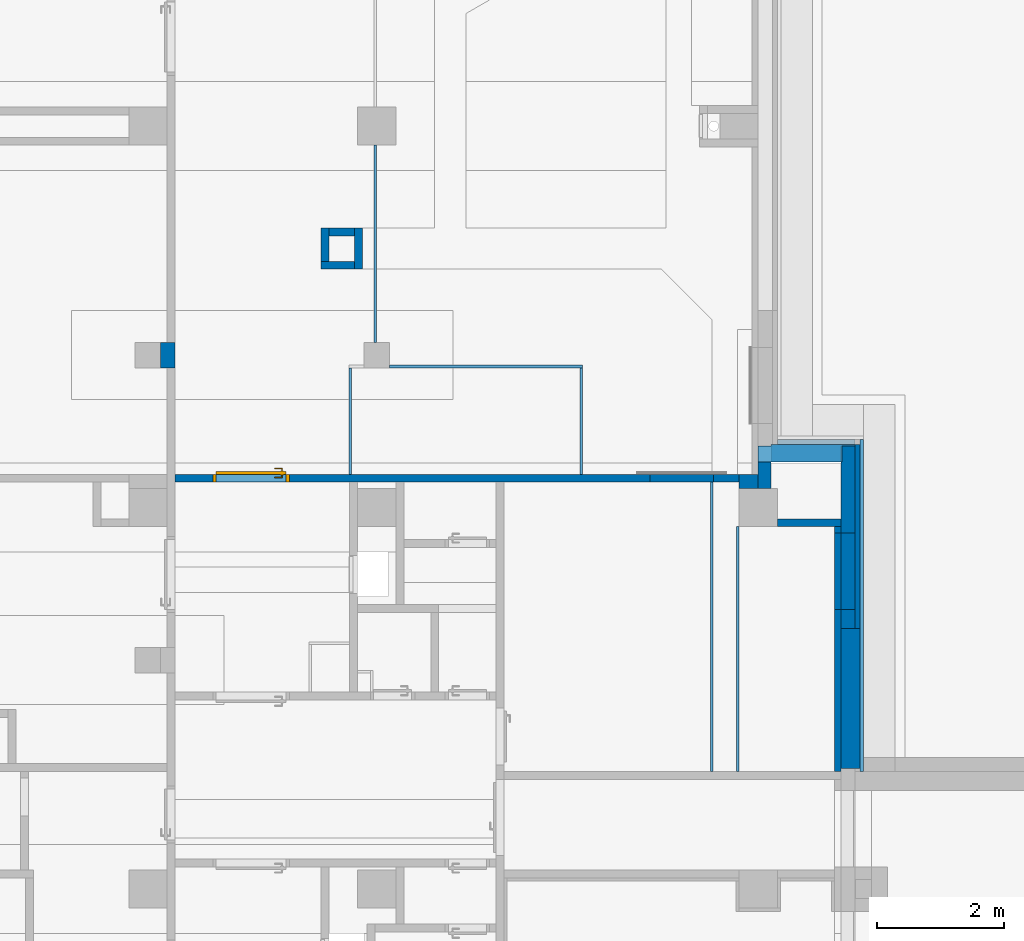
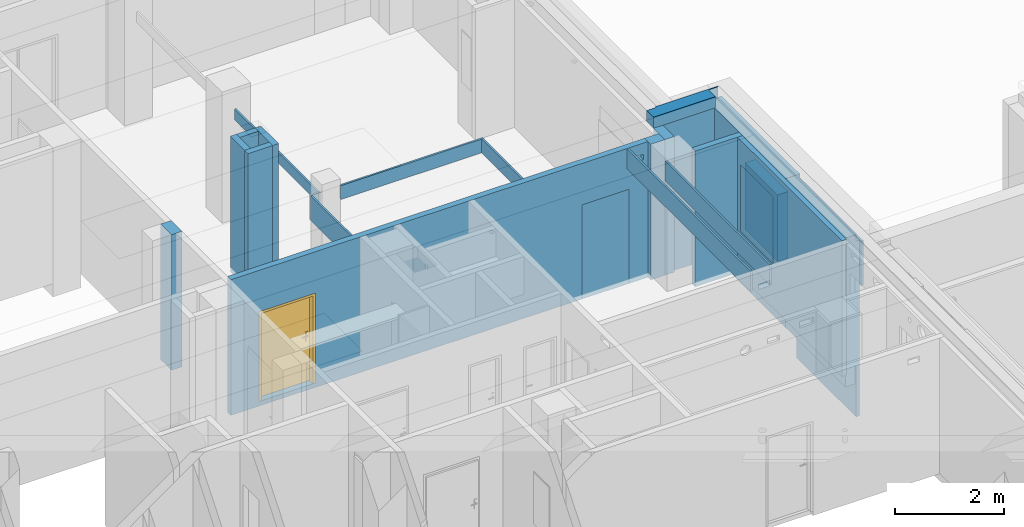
# One storey, part 39 of 84: 25 walls, 1 door, 5 openings.
"""IFC4 building model written with IfcOpenShell, lengths in metres."""

import ifcopenshell
import ifcopenshell.guid

model = None  # the IFC model being written
_history = None  # IfcOwnerHistory: only IFC2X3 demands one
_inside = {}  # id of a spatial element -> (the spatial element, [elements in it])
_under = {}  # id of a project, library or spatial element -> (it, [spatial elements below it])
_declared = {}  # id of a project -> (the project, [libraries it declares])
_typed = {}  # id of a type object -> (the type object, [elements of that type])
_made_of = {}  # id of a material, layer set ... -> (it, [elements and type objects made of it])


def new_model(schema):
    """Start an empty IFC model of exactly this schema.

    Asked for "IFC4X3", IfcOpenShell would pick the latest addendum, in which some entities
    have other attributes; the version numbers below select the first issue.
    IFC2X3 requires an IfcOwnerHistory on every rooted entity: one is made here for all.
    """
    global model, _history
    if schema == "IFC4X3":
        model = ifcopenshell.file(schema_version=(4, 3, 0, 0))
    else:
        model = ifcopenshell.file(schema=schema)
    _inside.clear()
    _under.clear()
    _declared.clear()
    _typed.clear()
    _made_of.clear()
    _history = None
    if model.schema == "IFC2X3":
        org = make("IfcOrganization", Name="unknown")
        user = make(
            "IfcPersonAndOrganization",
            ThePerson=make("IfcPerson", FamilyName="unknown"),
            TheOrganization=org,
        )
        app = make(
            "IfcApplication",
            ApplicationDeveloper=org,
            Version="unknown",
            ApplicationFullName="unknown",
            ApplicationIdentifier="unknown",
        )
        _history = make(
            "IfcOwnerHistory",
            OwningUser=user,
            OwningApplication=app,
            ChangeAction="ADDED",
            CreationDate=0,
        )
    return model


def make(cls, **values):
    """One entity of the class cls with the attributes given. An attribute that is None is left unset."""
    return model.create_entity(
        cls, **{name: value for name, value in values.items() if value is not None}
    )


def entity(cls, *values):
    """Any entity or typed value of the class cls, its attributes in the order of the schema. None: left unset."""
    e = model.create_entity(cls)
    for i, value in enumerate(values):
        if value is not None:
            e[i] = value
    return e


def rooted(cls, **values):
    """An entity with a GlobalId (a new one), such as an element, a storey or a relation."""
    return make(cls, GlobalId=ifcopenshell.guid.new(), OwnerHistory=_history, **values)


def si_unit(unit_type, name, prefix=None):
    """IfcSIUnit, for example si_unit("LENGTHUNIT", "METRE", prefix="MILLI")."""
    return make("IfcSIUnit", UnitType=unit_type, Prefix=prefix, Name=name)


def converted_unit(unit_type, name, factor, base, dimensions=None, offset=None):
    """IfcConversionBasedUnit, such as the inch: factor (a typed value) times the base unit."""
    return make(
        "IfcConversionBasedUnit"
        if offset is None
        else "IfcConversionBasedUnitWithOffset",
        ConversionOffset=offset,
        Dimensions=None
        if dimensions is None
        else entity("IfcDimensionalExponents", *dimensions),
        UnitType=unit_type,
        Name=name,
        ConversionFactor=make(
            "IfcMeasureWithUnit", ValueComponent=factor, UnitComponent=base
        ),
    )


def derived_unit(unit_type, elements):
    """IfcDerivedUnit: a product of units, each with its exponent."""
    return make(
        "IfcDerivedUnit",
        Elements=[
            make("IfcDerivedUnitElement", Unit=unit, Exponent=power)
            for unit, power in elements
        ],
        UnitType=unit_type,
    )


def assignment(units):
    """IfcUnitAssignment: the units of a project."""
    return None if units is None else make("IfcUnitAssignment", Units=units)


def point(xyz):
    """IfcCartesianPoint."""
    return None if xyz is None else make("IfcCartesianPoint", Coordinates=xyz)


def direction(xyz):
    """IfcDirection."""
    return None if xyz is None else make("IfcDirection", DirectionRatios=xyz)


def frame(location, z_axis=None, x_axis=None):
    """IfcAxis2Placement3D, a coordinate frame: its origin and axes. An axis left out is left unset."""
    return make(
        "IfcAxis2Placement3D",
        Location=point(location),
        Axis=direction(z_axis),
        RefDirection=direction(x_axis),
    )


def frame_2d(location, x_axis=None):
    """IfcAxis2Placement2D, a coordinate frame in the plane: its origin and x axis."""
    return make(
        "IfcAxis2Placement2D", Location=point(location), RefDirection=direction(x_axis)
    )


def origin():
    """The frame at (0, 0, 0) with its axes left unset."""
    return frame((0.0, 0.0, 0.0))


def origin_with_axes():
    """The frame at (0, 0, 0) with the z axis (0, 0, 1) and the x axis (1, 0, 0) written out."""
    return frame((0.0, 0.0, 0.0), z_axis=(0.0, 0.0, 1.0), x_axis=(1.0, 0.0, 0.0))


def place(relative_to, where):
    """IfcLocalPlacement: puts the frame where relative to a parent placement (None: the world)."""
    return make(
        "IfcLocalPlacement", PlacementRelTo=relative_to, RelativePlacement=where
    )


def context(
    kind, dimensions, precision=None, world=None, true_north=None, identifier=None
):
    """IfcGeometricRepresentationContext, for example the 3D "Model" context."""
    return make(
        "IfcGeometricRepresentationContext",
        ContextIdentifier=identifier,
        ContextType=kind,
        CoordinateSpaceDimension=dimensions,
        Precision=precision,
        WorldCoordinateSystem=world,
        TrueNorth=true_north,
    )


def subcontext(parent, identifier, kind, view, scale=None):
    """IfcGeometricRepresentationSubContext, for example "Body" below "Model"."""
    return make(
        "IfcGeometricRepresentationSubContext",
        ContextIdentifier=identifier,
        ContextType=kind,
        ParentContext=parent,
        TargetScale=scale,
        TargetView=view,
    )


def project(units=None, contexts=None):
    """IfcProject with its units and contexts."""
    return rooted(
        "IfcProject",
        Name="project",
        RepresentationContexts=contexts,
        UnitsInContext=assignment(units),
    )


def spatial(cls, under=None, at=None, **own):
    """A site, building, storey or space (cls), placed at a placement, below another one or the project."""
    s = rooted(cls, ObjectPlacement=at, **own)
    if under is not None:
        _under.setdefault(under.id(), (under, []))[1].append(s)
    return s


def polyline(points):
    """IfcPolyline through the points."""
    return make("IfcPolyline", Points=[point(p) for p in points])


def profile(cls, at=None, kind="AREA", **sizes):
    """A parametric profile (cls). Its sizes go by their IFC names, for example OverallWidth=200.0."""
    return make(cls, ProfileType=kind, Position=at, **sizes)


def rectangle(**sizes):
    """IfcRectangleProfileDef."""
    return profile("IfcRectangleProfileDef", **sizes)


def outline(outer, holes=None, kind="AREA"):
    """IfcArbitraryClosedProfileDef: a profile drawn as a closed curve; with holes, ...WithVoids."""
    if holes is None:
        return make("IfcArbitraryClosedProfileDef", ProfileType=kind, OuterCurve=outer)
    return make(
        "IfcArbitraryProfileDefWithVoids",
        ProfileType=kind,
        OuterCurve=outer,
        InnerCurves=holes,
    )


def extrude(swept, where, along, depth):
    """IfcExtrudedAreaSolid: the profile swept, set in the frame where, extruded along a direction by depth."""
    return make(
        "IfcExtrudedAreaSolid",
        SweptArea=swept,
        Position=where,
        ExtrudedDirection=direction(along),
        Depth=depth,
    )


def clip(a, b, op="DIFFERENCE"):
    """IfcBooleanClippingResult: the solid a cut by the half space b."""
    return make(
        "IfcBooleanClippingResult", Operator=op, FirstOperand=a, SecondOperand=b
    )


def bounded_halfspace(plane, agree, where, boundary):
    """IfcPolygonalBoundedHalfSpace: a half space limited to a polygon's prism."""
    return make(
        "IfcPolygonalBoundedHalfSpace",
        BaseSurface=make("IfcPlane", Position=plane),
        AgreementFlag=agree,
        Position=where,
        PolygonalBoundary=boundary,
    )


def faces_of(points, faces, orient=None, outer=None):
    """IfcFace entities. A face is a list of loops; a loop is a list of indices into points, from 0.

    orient and outer hold one flag for each loop. By default every Orientation is true, the
    first loop of a face is its IfcFaceOuterBound and the others are IfcFaceBound.
    """
    made = []
    for i, loops in enumerate(faces):
        bounds = []
        for j, loop in enumerate(loops):
            is_outer = j == 0 if outer is None else outer[i][j]
            bounds.append(
                make(
                    "IfcFaceOuterBound" if is_outer else "IfcFaceBound",
                    Bound=make("IfcPolyLoop", Polygon=[points[k] for k in loop]),
                    Orientation=True if orient is None else orient[i][j],
                )
            )
        made.append(make("IfcFace", Bounds=bounds))
    return made


def closed_shell(faces, orient=None, outer=None):
    """The faces of one IfcClosedShell. faceted_brep and surface_model build it on their shared points."""
    return ("IfcClosedShell", faces, orient, outer)


def open_shell(faces, orient=None, outer=None):
    """The faces of one IfcOpenShell. surface_model builds it on its shared points."""
    return ("IfcOpenShell", faces, orient, outer)


def surface_model(cls, points, shells):
    """IfcFaceBasedSurfaceModel or IfcShellBasedSurfaceModel (cls): surfaces that need not close."""
    shared = [point(p) for p in points]
    made = [make(c, CfsFaces=faces_of(shared, fs, o, b)) for c, fs, o, b in shells]
    if cls == "IfcFaceBasedSurfaceModel":
        return make(cls, FbsmFaces=made)
    return make(cls, SbsmBoundary=made)


def shape(context_of_items, identifier, shape_type, items):
    """IfcShapeRepresentation: the items that make up one representation, for example the "Body"."""
    return make(
        "IfcShapeRepresentation",
        ContextOfItems=context_of_items,
        RepresentationIdentifier=identifier,
        RepresentationType=shape_type,
        Items=items,
    )


def source(mapping_origin, context_of_items, identifier, shape_type, items):
    """IfcRepresentationMap: a shape defined once, which mapped items show again and again."""
    return make(
        "IfcRepresentationMap",
        MappingOrigin=mapping_origin,
        MappedRepresentation=shape(context_of_items, identifier, shape_type, items),
    )


def transform(
    local_origin,
    x_axis=None,
    y_axis=None,
    z_axis=None,
    scale=None,
    scale2=None,
    scale3=None,
    uniform=True,
):
    """IfcCartesianTransformationOperator3D, or its non-uniform kind. x_axis, y_axis, z_axis: its Axis1, 2, 3."""
    if uniform:
        return make(
            "IfcCartesianTransformationOperator3D",
            Axis1=direction(x_axis),
            Axis2=direction(y_axis),
            LocalOrigin=point(local_origin),
            Scale=scale,
            Axis3=direction(z_axis),
        )
    return make(
        "IfcCartesianTransformationOperator3DnonUniform",
        Axis1=direction(x_axis),
        Axis2=direction(y_axis),
        LocalOrigin=point(local_origin),
        Scale=scale,
        Axis3=direction(z_axis),
        Scale2=scale2,
        Scale3=scale3,
    )


def mapped(mapping_source, mapping_target):
    """IfcMappedItem: shows the shape of a source again, moved by a transform."""
    return make(
        "IfcMappedItem", MappingSource=mapping_source, MappingTarget=mapping_target
    )


def material(Name=None, Category=None):
    """IfcMaterial."""
    return make("IfcMaterial", Name=Name, Category=Category)


def layer(
    of_material, thickness, ventilated=None, Name=None, Category=None, Priority=None
):
    """IfcMaterialLayer: one layer of a wall or slab, of a material (None: an air gap)."""
    return make(
        "IfcMaterialLayer",
        Material=of_material,
        LayerThickness=thickness,
        IsVentilated=ventilated,
        Name=Name,
        Category=Category,
        Priority=Priority,
    )


def layer_set(layers, Name=None):
    """IfcMaterialLayerSet."""
    return make("IfcMaterialLayerSet", MaterialLayers=layers, LayerSetName=Name)


def layer_usage(for_layer_set, set_direction, sense, offset, extent=None):
    """IfcMaterialLayerSetUsage: how a layer set lies in its element."""
    return make(
        "IfcMaterialLayerSetUsage",
        ForLayerSet=for_layer_set,
        LayerSetDirection=set_direction,
        DirectionSense=sense,
        OffsetFromReferenceLine=offset,
        ReferenceExtent=extent,
    )


def made_of(thing, what):
    """Note that an element or type object is made of a material, layer set ...; save() writes the relation."""
    if what is not None:
        _made_of.setdefault(what.id(), (what, []))[1].append(thing)
    return thing


def type_object(cls, material=None, **own):
    """A type object (cls), such as IfcWallType, which elements share."""
    return made_of(rooted(cls, **own), material)


def element(
    cls,
    number,
    at=None,
    inside=None,
    cuts=None,
    type_object=None,
    material=None,
    context=None,
    identifier="Body",
    shape_type=None,
    held_by="IfcProductDefinitionShape",
    body=None,
    shapes=None,
    **own,
):
    """One element of the class cls, such as IfcWall. Its Tag is "e" and its number.

    at: its placement. inside: the storey or other place that contains it. cuts: it is an
    opening in that element (IfcRelVoidsElement). A single representation is given by context,
    identifier, shape_type and body (its items); several are given by shapes. held_by: the class
    of the entity that holds the representations. save() writes the other relations.
    """
    e = rooted(cls, Tag="e%d" % number, ObjectPlacement=at, **own)
    if body is not None:
        shapes = [shape(context, identifier, shape_type, body)]
    if shapes is not None:
        e.Representation = make(held_by, Representations=shapes)
    if inside is not None:
        _inside.setdefault(inside.id(), (inside, []))[1].append(e)
    if cuts is not None:
        rooted(
            "IfcRelVoidsElement", RelatingBuildingElement=cuts, RelatedOpeningElement=e
        )
    if type_object is not None:
        _typed.setdefault(type_object.id(), (type_object, []))[1].append(e)
    return made_of(e, material)


def fill(opening, filler):
    """IfcRelFillsElement: the door or window that sits in an opening."""
    return rooted(
        "IfcRelFillsElement",
        RelatingOpeningElement=opening,
        RelatedBuildingElement=filler,
    )


def aggregate(whole, parts):
    """IfcRelAggregates: a whole, such as a stair, and the parts it consists of."""
    return rooted("IfcRelAggregates", RelatingObject=whole, RelatedObjects=parts)


def save(model, path):
    """Write the relations noted so far, then the file.

    IfcRelAggregates (storeys below a building ...), IfcRelContainedInSpatialStructure (elements
    in a storey), IfcRelDefinesByType, IfcRelAssociatesMaterial and IfcRelDeclares: one each for
    every whole, place, type object, material and project.
    """
    for whole, parts in _under.values():
        aggregate(whole, parts)
    for where, things in _inside.values():
        rooted(
            "IfcRelContainedInSpatialStructure",
            RelatedElements=things,
            RelatingStructure=where,
        )
    for kind, things in _typed.values():
        rooted("IfcRelDefinesByType", RelatedObjects=things, RelatingType=kind)
    for what, things in _made_of.values():
        rooted("IfcRelAssociatesMaterial", RelatedObjects=things, RelatingMaterial=what)
    for by, libraries in _declared.values():
        rooted("IfcRelDeclares", RelatingContext=by, RelatedDefinitions=libraries)
    model.write(path)


model = new_model("IFC4")

# Units and contexts
model_context = context("Model", 3, precision=1e-05, world=origin())
body_context = subcontext(model_context, "Body", "Model", "MODEL_VIEW")
ifc_project = project(units=[si_unit("LENGTHUNIT", "METRE"), si_unit("AREAUNIT", "SQUARE_METRE"), si_unit("VOLUMEUNIT", "CUBIC_METRE"), si_unit("MASSUNIT", "GRAM", prefix="KILO"), converted_unit("PLANEANGLEUNIT", "DEGREE", entity("IfcPlaneAngleMeasure", 0.0174532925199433), si_unit("PLANEANGLEUNIT", "RADIAN"), dimensions=[0, 0, 0, 0, 0, 0, 0]), derived_unit("THERMALTRANSMITTANCEUNIT", [(si_unit("POWERUNIT", "WATT"), 1), (si_unit("THERMODYNAMICTEMPERATUREUNIT", "KELVIN"), -1), (si_unit("LENGTHUNIT", "METRE"), -2)]), derived_unit("VOLUMETRICFLOWRATEUNIT", [(si_unit("LENGTHUNIT", "METRE"), 3), (converted_unit("TIMEUNIT", "hour", entity("IfcTimeMeasure", 3600.0), si_unit("TIMEUNIT", "SECOND"), dimensions=[0, 0, 1, 0, 0, 0, 0]), -1), (si_unit("LENGTHUNIT", "METRE"), -1)])], contexts=[model_context])

# Site, building, storey
site_placement = place(None, origin())
site = spatial("IfcSite", under=ifc_project, at=site_placement, Name="3. ASŘ", CompositionType="ELEMENT")
building_placement = place(site_placement, origin())
building = spatial("IfcBuilding", under=site, at=building_placement, Name="Pavilon C", CompositionType="ELEMENT")
storey_placement = place(building_placement, frame((0.0, 0.0, -3.3)))
storey = spatial("IfcBuildingStorey", under=building, at=storey_placement, Name="Půdorys 1.PP", CompositionType="ELEMENT", Elevation=-3.3)

# Walls
ifc_material_1 = material(Name="ZELEZOBETONOVÁ KCE")
ifc_layer_1 = layer(ifc_material_1, 0.25)
ifc_material_2 = material(Name="LIGNOPOR")
ifc_layer_2 = layer(ifc_material_2, 0.025)
ifc_material_3 = material(Name="PÓROBETONOVÉ ZDIVO")
ifc_layer_3 = layer(ifc_material_3, 0.08)
ifc_layer_set_1 = layer_set([ifc_layer_1, ifc_layer_2, ifc_layer_3])
ifc_layer_usage_1 = layer_usage(ifc_layer_set_1, "AXIS2", "POSITIVE", 0.0)
wall_1_placement = place(storey_placement, frame((50.15, 19.92, -0.4)))
element("IfcWall", 1, at=wall_1_placement, inside=storey, material=ifc_layer_usage_1, Name="ZELEZOBETONOVÁ KCE", context=body_context, shape_type="Clipping", body=[
    clip(clip(extrude(outline(polyline([(0.0, 0.0), (1.1, 0.0), (1.1, 0.25), (1.3, 0.25), (1.3, 0.275), (1.325, 0.275), (1.325, 0.355), (0.105, 0.355), (0.105, 0.275), (0.025, 0.275), (0.025, 0.25), (0.0, 0.25), (0.0, 0.0)])), origin_with_axes(), (0.0, 0.0, 1.0), 3.35), bounded_halfspace(frame((0.6425, 0.262499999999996, 0.4), z_axis=(0.0, 0.0, 1.0), x_axis=(-1.0, 0.0, 0.0)), True, origin_with_axes(), polyline([(0.105, 0.275), (0.025, 0.275), (0.025, 0.25), (1.10000000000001, 0.25), (1.3, 0.25), (1.3, 0.275), (0.105, 0.275)]))), bounded_halfspace(frame((0.832, 0.307, 1.3), z_axis=(0.0, 2.8421709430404e-15, -1.0), x_axis=(1.0, 0.0, 1.81898940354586e-14)), True, origin_with_axes(), polyline([(1.3, 0.275), (1.325, 0.275), (1.325, 0.355), (0.105, 0.355), (0.105, 0.275), (1.3, 0.275)]))),
])
ifc_material_4 = material(Name="ZDIVO Z CDm")
ifc_layer_4 = layer(ifc_material_4, 0.125)
ifc_layer_set_2 = layer_set([ifc_layer_4])
ifc_layer_usage_2 = layer_usage(ifc_layer_set_2, "AXIS2", "POSITIVE", 0.0)
wall_2_placement = place(storey_placement, frame((50.25, 18.9, -0.1)))
element("IfcWall", 2, at=wall_2_placement, inside=storey, material=ifc_layer_usage_2, Name="ZDIVO Z CDm", context=body_context, shape_type="SweptSolid", body=[
    extrude(rectangle(XDim=1.0, YDim=0.125, at=frame_2d((0.5, 0.0625), x_axis=(1.0, 0.0))), origin_with_axes(), (0.0, 0.0, 1.0), 3.05),
])
ifc_material_5 = material(Name="ZDIVO Z CDm")
ifc_layer_5 = layer(ifc_material_5, 0.125)
ifc_layer_set_3 = layer_set([ifc_layer_5])
ifc_layer_usage_3 = layer_usage(ifc_layer_set_3, "AXIS2", "POSITIVE", 0.0)
wall_3_placement = place(storey_placement, frame((43.2, 23.075, -0.1), z_axis=(0.0, 0.0, 1.0), x_axis=(0.0, 1.0, 0.0)))
element("IfcWall", 3, at=wall_3_placement, inside=storey, material=ifc_layer_usage_3, Name="ZDIVO Z CDm", context=body_context, shape_type="SweptSolid", body=[
    extrude(rectangle(XDim=0.525, YDim=0.125, at=frame_2d((0.2625, 0.0625), x_axis=(1.0, 0.0))), origin_with_axes(), (0.0, 0.0, 1.0), 3.05),
])
ifc_material_6 = material(Name="ZDIVO Z CDm")
ifc_layer_6 = layer(ifc_material_6, 0.125)
ifc_layer_set_4 = layer_set([ifc_layer_6])
ifc_layer_usage_4 = layer_usage(ifc_layer_set_4, "AXIS2", "POSITIVE", 0.0)
wall_4_placement = place(storey_placement, frame((43.6, 23.6, -0.1), z_axis=(0.0, 0.0, 1.0), x_axis=(0.0, -1.0, 0.0)))
element("IfcWall", 4, at=wall_4_placement, inside=storey, material=ifc_layer_usage_4, Name="ZDIVO Z CDm", context=body_context, shape_type="SweptSolid", body=[
    extrude(rectangle(XDim=0.65, YDim=0.125, at=frame_2d((0.325, 0.0625), x_axis=(1.0, 0.0))), origin_with_axes(), (0.0, 0.0, 1.0), 3.05),
])
ifc_material_7 = material(Name="ZDIVO Z CDm")
ifc_layer_7 = layer(ifc_material_7, 0.125)
ifc_layer_set_5 = layer_set([ifc_layer_7])
ifc_layer_usage_5 = layer_usage(ifc_layer_set_5, "AXIS2", "POSITIVE", 0.0)
wall_5_placement = place(storey_placement, frame((43.6, 23.075, -0.1), z_axis=(0.0, 0.0, 1.0), x_axis=(-1.0, 0.0, 0.0)))
element("IfcWall", 5, at=wall_5_placement, inside=storey, material=ifc_layer_usage_5, Name="ZDIVO Z CDm", context=body_context, shape_type="SweptSolid", body=[
    extrude(rectangle(XDim=0.525, YDim=0.125, at=frame_2d((0.2625, 0.0625), x_axis=(1.0, 0.0))), origin_with_axes(), (0.0, 0.0, 1.0), 3.05),
])
ifc_material_8 = material(Name="ZDIVO Z CDm")
ifc_layer_8 = layer(ifc_material_8, 0.125)
ifc_layer_set_6 = layer_set([ifc_layer_8])
ifc_layer_usage_6 = layer_usage(ifc_layer_set_6, "AXIS2", "POSITIVE", 0.0)
wall_6_placement = place(storey_placement, frame((43.2, 23.475, -0.1)))
element("IfcWall", 6, at=wall_6_placement, inside=storey, material=ifc_layer_usage_6, Name="ZDIVO Z CDm", context=body_context, shape_type="SweptSolid", body=[
    extrude(rectangle(XDim=0.4, YDim=0.125, at=frame_2d((0.2, 0.0625), x_axis=(1.0, 0.0))), origin_with_axes(), (0.0, 0.0, 1.0), 3.05),
])
ifc_material_9 = material(Name="SDK SVISLA CAST PODHLEDU")
ifc_layer_9 = layer(ifc_material_9, 0.04)
ifc_layer_set_7 = layer_set([ifc_layer_9])
ifc_layer_usage_7 = layer_usage(ifc_layer_set_7, "AXIS2", "POSITIVE", 0.0)
wall_7_placement = place(storey_placement, frame((43.95, 21.8, 2.24), z_axis=(0.0, 0.0, 1.0), x_axis=(0.0, 1.0, 0.0)))
element("IfcWall", 7, at=wall_7_placement, inside=storey, material=ifc_layer_usage_7, Name="SDK SVISLA CAST PODHLEDU", context=body_context, shape_type="SweptSolid", body=[
    extrude(rectangle(XDim=3.1, YDim=0.04, at=frame_2d((1.55, 0.02), x_axis=(1.0, 0.0))), origin_with_axes(), (0.0, 0.0, 1.0), 0.24),
])

# Wall, openings, door
ifc_material_10 = material(Name="ZDIVO Z CDm")
ifc_layer_10 = layer(ifc_material_10, 0.125)
ifc_layer_set_8 = layer_set([ifc_layer_10])
ifc_layer_usage_8 = layer_usage(ifc_layer_set_8, "AXIS2", "POSITIVE", 0.0)
wall_8_placement = place(storey_placement, frame((40.775, 19.6, -0.1)))
wall_8 = element("IfcWall", 8, at=wall_8_placement, inside=storey, material=ifc_layer_usage_8, Name="ZDIVO Z CDm", context=body_context, shape_type="SweptSolid", body=[
    extrude(rectangle(XDim=8.875, YDim=0.125, at=frame_2d((4.4375, 0.0625), x_axis=(1.0, 0.0))), origin_with_axes(), (0.0, 0.0, 1.0), 3.05),
])
opening_1_placement = place(wall_8_placement, frame((1.8, 0.125, 0.1), z_axis=(0.0, -1.0, 0.0), x_axis=(0.0, 0.0, 1.0)))
opening_1 = element("IfcOpeningElement", 9, at=opening_1_placement, cuts=wall_8, Name="Dveřní otvor", ObjectType="Opening", context=body_context, shape_type="SweptSolid", body=[
    extrude(outline(polyline([(0.0, 1.2), (2.02, 1.2), (2.02, 0.0), (0.0, 0.0), (0.0, 1.2)])), origin_with_axes(), (0.0, 0.0, 1.0), 0.125),
])
opening_2_placement = place(wall_8_placement, frame((8.525, 0.0, 2.68), z_axis=(0.0, 1.0, 0.0), x_axis=(0.0, 0.0, 1.0)))
element("IfcOpeningElement", 10, at=opening_2_placement, cuts=wall_8, Name="UT", ObjectType="Opening", context=body_context, shape_type="SweptSolid", body=[
    extrude(outline(polyline([(0.0, 0.25), (0.12, 0.25), (0.12, 0.0), (0.0, 0.0), (0.0, 0.25)])), origin_with_axes(), (0.0, 0.0, 1.0), 0.125),
])
opening_3_placement = place(wall_8_placement, frame((8.475, 0.125, 0.0), z_axis=(0.0, -1.0, 0.0), x_axis=(0.0, 0.0, 1.0)))
element("IfcOpeningElement", 11, at=opening_3_placement, cuts=wall_8, Name="Dveřní otvor", ObjectType="Opening", context=body_context, shape_type="SweptSolid", body=[
    extrude(outline(polyline([(0.0, 1.0), (2.12, 1.0), (2.12, 0.0), (0.0, 0.0), (0.0, 1.0)])), origin_with_axes(), (0.0, 0.0, 1.0), 0.125),
])
door_type = type_object("IfcDoorType", Name="D101", OperationType="NOTDEFINED", ParameterTakesPrecedence=False, PredefinedType="DOOR")
shared_shape = source(origin_with_axes(), body_context, "Body", "SurfaceModel", [
    surface_model("IfcShellBasedSurfaceModel", [(0.0, 0.125, 2.02), (0.0, 0.125, -7.65404249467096e-18), (0.05, 0.125, -7.65404249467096e-18), (0.05, 0.125, 2.02), (0.0, 0.0, 7.65404249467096e-18), (0.0, 2.41584530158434e-16, 2.02), (0.05, 2.41584530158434e-16, 2.02), (0.05, 0.0, 7.65404249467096e-18)], [closed_shell([[[0, 1, 2, 3]], [[4, 5, 6, 7]], [[1, 0, 5, 4]], [[2, 1, 4, 7]], [[3, 2, 7, 6]], [[0, 3, 6, 5]]], orient=[[False], [False], [False], [False], [False], [False]])]),
    surface_model("IfcShellBasedSurfaceModel", [(1.15, 0.125, 2.02), (1.15, 0.125, -7.65404249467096e-18), (1.2, 0.125, -7.65404249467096e-18), (1.2, 0.125, 2.02), (1.15, 0.0, 7.65404249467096e-18), (1.15, 2.41584530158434e-16, 2.02), (1.2, 2.41584530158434e-16, 2.02), (1.2, 0.0, 7.65404249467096e-18)], [closed_shell([[[0, 1, 2, 3]], [[4, 5, 6, 7]], [[1, 0, 5, 4]], [[2, 1, 4, 7]], [[3, 2, 7, 6]], [[0, 3, 6, 5]]], orient=[[False], [False], [False], [False], [False], [False]])]),
    surface_model("IfcShellBasedSurfaceModel", [(0.05, 0.125, 2.02), (0.05, 0.125, 1.97), (1.15, 0.125, 1.97), (1.15, 0.125, 2.02), (0.05, 2.41584530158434e-16, 1.97), (0.05, 2.41584530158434e-16, 2.02), (1.15, 2.41584530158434e-16, 2.02), (1.15, 2.41584530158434e-16, 1.97)], [closed_shell([[[0, 1, 2, 3]], [[4, 5, 6, 7]], [[1, 0, 5, 4]], [[2, 1, 4, 7]], [[3, 2, 7, 6]], [[0, 3, 6, 5]]], orient=[[False], [False], [False], [False], [False], [False]])]),
    surface_model("IfcShellBasedSurfaceModel", [(0.05, 0.165, 1.97), (0.05, 0.165, -1.25526296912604e-17), (1.15, 0.165, -1.25526296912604e-17), (1.15, 0.165, 1.97), (0.05, 0.125, -7.65404249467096e-18), (0.05, 0.125, 1.97), (1.15, 0.125, 1.97), (1.15, 0.125, -7.65404249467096e-18)], [closed_shell([[[0, 1, 2, 3]], [[4, 5, 6, 7]], [[1, 0, 5, 4]], [[2, 1, 4, 7]], [[3, 2, 7, 6]], [[0, 3, 6, 5]]], orient=[[False], [False], [False], [False], [False], [False]])]),
    surface_model("IfcShellBasedSurfaceModel", [(1.06, 0.125, 1.125), (1.06, 0.125, 0.91), (1.11, 0.125, 0.91), (1.11, 0.125, 1.125), (1.06, 0.115, 0.91), (1.06, 0.115, 1.125), (1.11, 0.115, 1.125), (1.11, 0.115, 0.91)], [closed_shell([[[0, 1, 2, 3]], [[4, 5, 6, 7]], [[1, 0, 5, 4]], [[2, 1, 4, 7]], [[3, 2, 7, 6]], [[0, 3, 6, 5]]], orient=[[False], [False], [False], [False], [False], [False]])]),
    surface_model("IfcShellBasedSurfaceModel", [(1.085, 0.115, 1.06), (1.08, 0.115, 1.05866025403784), (1.07633974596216, 0.115, 1.055), (1.075, 0.115, 1.05), (1.07633974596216, 0.115, 1.045), (1.08, 0.115, 1.04133974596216), (1.085, 0.115, 1.04), (1.09, 0.115, 1.04133974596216), (1.09366025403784, 0.115, 1.045), (1.095, 0.115, 1.05), (1.09366025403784, 0.115, 1.055), (1.09, 0.115, 1.05866025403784), (1.09, 0.0700000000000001, 1.05866025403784), (1.085, 0.0750000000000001, 1.06), (1.09366025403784, 0.0663397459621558, 1.055), (1.095, 0.0650000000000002, 1.05), (1.09366025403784, 0.0663397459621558, 1.045), (1.09, 0.0700000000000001, 1.04133974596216), (1.085, 0.0750000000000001, 1.04), (1.08, 0.0800000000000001, 1.04133974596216), (1.07633974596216, 0.0836602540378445, 1.045), (1.075, 0.0850000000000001, 1.05), (1.07633974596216, 0.0836602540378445, 1.055), (1.08, 0.0800000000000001, 1.05866025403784), (0.97, 0.0700000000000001, 1.05866025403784), (0.97, 0.0750000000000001, 1.06), (0.97, 0.0663397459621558, 1.055), (0.97, 0.0650000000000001, 1.05), (0.97, 0.0663397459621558, 1.045), (0.97, 0.0700000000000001, 1.04133974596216), (0.97, 0.0750000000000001, 1.04), (0.97, 0.0800000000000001, 1.04133974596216), (0.97, 0.0836602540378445, 1.045), (0.97, 0.0850000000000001, 1.05), (0.97, 0.0836602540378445, 1.055), (0.97, 0.0800000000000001, 1.05866025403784)], [open_shell([[[0, 1, 2, 3, 4, 5, 6, 7, 8, 9, 10, 11]], [[0, 11, 12, 13]], [[11, 10, 14, 12]], [[10, 9, 15, 14]], [[9, 8, 16, 15]], [[8, 7, 17, 16]], [[7, 6, 18, 17]], [[6, 5, 19, 18]], [[5, 4, 20, 19]], [[4, 3, 21, 20]], [[3, 2, 22, 21]], [[2, 1, 23, 22]], [[1, 0, 13, 23]], [[13, 12, 24, 25]], [[12, 14, 26, 24]], [[14, 15, 27, 26]], [[15, 16, 28, 27]], [[16, 17, 29, 28]], [[17, 18, 30, 29]], [[18, 19, 31, 30]], [[19, 20, 32, 31]], [[20, 21, 33, 32]], [[21, 22, 34, 33]], [[22, 23, 35, 34]], [[23, 13, 25, 35]]], orient=[[False], [False], [False], [False], [False], [False], [False], [False], [False], [False], [False], [False], [False], [False], [False], [False], [False], [False], [False], [False], [False], [False], [False], [False], [False]])]),
    surface_model("IfcShellBasedSurfaceModel", [(1.06, 0.165, 1.125), (1.11, 0.165, 1.125), (1.11, 0.165, 0.91), (1.06, 0.165, 0.91), (1.06, 0.175, 0.91), (1.11, 0.175, 0.91), (1.11, 0.175, 1.125), (1.06, 0.175, 1.125)], [closed_shell([[[0, 1, 2, 3]], [[4, 5, 6, 7]], [[3, 4, 7, 0]], [[2, 5, 4, 3]], [[1, 6, 5, 2]], [[0, 7, 6, 1]]], orient=[[False], [False], [False], [False], [False], [False]])]),
    surface_model("IfcShellBasedSurfaceModel", [(1.085, 0.175, 1.06), (1.09, 0.175, 1.05866025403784), (1.09366025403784, 0.175, 1.055), (1.095, 0.175, 1.05), (1.09366025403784, 0.175, 1.045), (1.09, 0.175, 1.04133974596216), (1.085, 0.175, 1.04), (1.08, 0.175, 1.04133974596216), (1.07633974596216, 0.175, 1.045), (1.075, 0.175, 1.05), (1.07633974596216, 0.175, 1.055), (1.08, 0.175, 1.05866025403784), (1.085, 0.215, 1.06), (1.09, 0.22, 1.05866025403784), (1.09366025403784, 0.223660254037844, 1.055), (1.095, 0.225, 1.05), (1.09366025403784, 0.223660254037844, 1.045), (1.09, 0.22, 1.04133974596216), (1.085, 0.215, 1.04), (1.08, 0.21, 1.04133974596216), (1.07633974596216, 0.206339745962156, 1.045), (1.075, 0.205, 1.05), (1.07633974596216, 0.206339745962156, 1.055), (1.08, 0.21, 1.05866025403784), (0.97, 0.215, 1.06), (0.97, 0.22, 1.05866025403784), (0.97, 0.223660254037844, 1.055), (0.97, 0.225, 1.05), (0.97, 0.223660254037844, 1.045), (0.97, 0.22, 1.04133974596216), (0.97, 0.215, 1.04), (0.97, 0.21, 1.04133974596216), (0.97, 0.206339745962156, 1.045), (0.97, 0.205, 1.05), (0.97, 0.206339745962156, 1.055), (0.97, 0.21, 1.05866025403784)], [open_shell([[[0, 1, 2, 3, 4, 5, 6, 7, 8, 9, 10, 11]], [[0, 12, 13, 1]], [[1, 13, 14, 2]], [[2, 14, 15, 3]], [[3, 15, 16, 4]], [[4, 16, 17, 5]], [[5, 17, 18, 6]], [[6, 18, 19, 7]], [[7, 19, 20, 8]], [[8, 20, 21, 9]], [[9, 21, 22, 10]], [[10, 22, 23, 11]], [[11, 23, 12, 0]], [[12, 24, 25, 13]], [[13, 25, 26, 14]], [[14, 26, 27, 15]], [[15, 27, 28, 16]], [[16, 28, 29, 17]], [[17, 29, 30, 18]], [[18, 30, 31, 19]], [[19, 31, 32, 20]], [[20, 32, 33, 21]], [[21, 33, 34, 22]], [[22, 34, 35, 23]], [[23, 35, 24, 12]]], orient=[[False], [False], [False], [False], [False], [False], [False], [False], [False], [False], [False], [False], [False], [False], [False], [False], [False], [False], [False], [False], [False], [False], [False], [False], [False]])]),
])
door_placement = place(opening_1_placement, frame((0.0, 1.2, 0.125), z_axis=(1.0, 0.0, 0.0), x_axis=(0.0, -1.0, 2.44929359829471e-16)))
door = element("IfcDoor", 12, at=door_placement, inside=storey, type_object=door_type, Name="D101", OverallHeight=2.02, OverallWidth=1.2, context=body_context, shape_type="MappedRepresentation", body=[
    mapped(shared_shape, transform((0.0, 0.0, 0.0), x_axis=(1.0, 0.0, 0.0), y_axis=(0.0, 1.0, 0.0), z_axis=(0.0, 0.0, 1.0), scale=1.0)),
])
fill(opening_1, door)

# Walls
ifc_material_11 = material(Name="ZDIVO Z CDm")
ifc_layer_11 = layer(ifc_material_11, 0.2)
ifc_layer_set_9 = layer_set([ifc_layer_11])
ifc_layer_usage_9 = layer_usage(ifc_layer_set_9, "AXIS2", "POSITIVE", 0.0)
wall_9_placement = place(storey_placement, frame((49.95, 19.92, -0.1), z_axis=(0.0, 0.0, 1.0), x_axis=(0.0, -1.0, 0.0)))
element("IfcWall", 13, at=wall_9_placement, inside=storey, material=ifc_layer_usage_9, Name="ZDIVO Z CDm", context=body_context, shape_type="SweptSolid", body=[
    extrude(rectangle(XDim=0.419999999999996, YDim=0.2, at=frame_2d((0.209999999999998, 0.1), x_axis=(1.0, 0.0))), origin_with_axes(), (0.0, 0.0, 1.0), 3.05),
])
ifc_material_12 = material(Name="ZDIVO Z CDm")
ifc_layer_12 = layer(ifc_material_12, 0.225)
ifc_layer_set_10 = layer_set([ifc_layer_12])
ifc_layer_usage_10 = layer_usage(ifc_layer_set_10, "AXIS2", "POSITIVE", 0.0)
wall_10_placement = place(storey_placement, frame((49.65, 19.5, -0.1)))
element("IfcWall", 14, at=wall_10_placement, inside=storey, material=ifc_layer_usage_10, Name="ZDIVO Z CDm", context=body_context, shape_type="SweptSolid", body=[
    extrude(rectangle(XDim=0.3, YDim=0.225, at=frame_2d((0.15, 0.1125), x_axis=(1.0, 0.0))), origin_with_axes(), (0.0, 0.0, 1.0), 3.05),
])
ifc_material_13 = material(Name="SDK SVISLA CAST PODHLEDU")
ifc_layer_13 = layer(ifc_material_13, 0.04)
ifc_layer_set_11 = layer_set([ifc_layer_13])
ifc_layer_usage_11 = layer_usage(ifc_layer_set_11, "AXIS2", "POSITIVE", 0.0)
wall_11_placement = place(storey_placement, frame((43.55, 19.725, 2.24), z_axis=(0.0, 0.0, 1.0), x_axis=(0.0, 1.0, 0.0)))
element("IfcWall", 15, at=wall_11_placement, inside=storey, material=ifc_layer_usage_11, Name="SDK SVISLA CAST PODHLEDU", context=body_context, shape_type="SweptSolid", body=[
    extrude(rectangle(XDim=1.675, YDim=0.04, at=frame_2d((0.837499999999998, 0.02), x_axis=(1.0, 0.0))), origin_with_axes(), (0.0, 0.0, 1.0), 0.55),
])
ifc_material_14 = material(Name="SDK SVISLA CAST PODHLEDU")
ifc_layer_14 = layer(ifc_material_14, 0.04)
ifc_layer_set_12 = layer_set([ifc_layer_14])
ifc_layer_usage_12 = layer_usage(ifc_layer_set_12, "AXIS2", "POSITIVE", 0.0)
wall_12_placement = place(storey_placement, frame((44.15, 21.4, 2.48)))
element("IfcWall", 16, at=wall_12_placement, inside=storey, material=ifc_layer_usage_12, Name="SDK SVISLA CAST PODHLEDU", context=body_context, shape_type="SweptSolid", body=[
    extrude(rectangle(XDim=3.04, YDim=0.04, at=frame_2d((1.52, 0.02), x_axis=(1.0, 0.0))), origin_with_axes(), (0.0, 0.0, 1.0), 0.31),
])
ifc_material_15 = material(Name="SDK SVISLA CAST PODHLEDU")
ifc_layer_15 = layer(ifc_material_15, 0.04)
ifc_layer_set_13 = layer_set([ifc_layer_15])
ifc_layer_usage_13 = layer_usage(ifc_layer_set_13, "AXIS2", "POSITIVE", 0.0)
wall_13_placement = place(storey_placement, frame((47.15, 21.4, 2.48), z_axis=(0.0, 0.0, 1.0), x_axis=(0.0, -1.0, 0.0)))
element("IfcWall", 17, at=wall_13_placement, inside=storey, material=ifc_layer_usage_13, Name="SDK SVISLA CAST PODHLEDU", context=body_context, shape_type="SweptSolid", body=[
    extrude(rectangle(XDim=1.675, YDim=0.04, at=frame_2d((0.837499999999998, 0.02), x_axis=(1.0, 0.0))), origin_with_axes(), (0.0, 0.0, 1.0), 0.31),
])
ifc_material_16 = material(Name="ZDIVO Z CDm")
ifc_layer_16 = layer(ifc_material_16, 0.225)
ifc_layer_set_14 = layer_set([ifc_layer_16])
ifc_layer_usage_14 = layer_usage(ifc_layer_set_14, "AXIS2", "POSITIVE", 0.0)
wall_14_placement = place(storey_placement, frame((40.775, 21.4, -0.1), z_axis=(0.0, 0.0, 1.0), x_axis=(0.0, 1.0, 0.0)))
element("IfcWall", 18, at=wall_14_placement, inside=storey, material=ifc_layer_usage_14, Name="ZDIVO Z CDm", context=body_context, shape_type="SweptSolid", body=[
    extrude(rectangle(XDim=0.4, YDim=0.225, at=frame_2d((0.2, 0.1125), x_axis=(1.0, 0.0))), origin_with_axes(), (0.0, 0.0, 1.0), 3.05),
])

# Wall, opening
ifc_material_17 = material(Name="PÓROBETONOVÉ ZDIVO")
ifc_layer_17 = layer(ifc_material_17, 0.1)
ifc_layer_set_15 = layer_set([ifc_layer_17])
ifc_layer_usage_15 = layer_usage(ifc_layer_set_15, "AXIS2", "POSITIVE", 0.0)
wall_15_placement = place(storey_placement, frame((51.25, 15.05, -0.1), z_axis=(0.0, 0.0, 1.0), x_axis=(0.0, 1.0, 0.0)))
wall_15 = element("IfcWall", 19, at=wall_15_placement, inside=storey, material=ifc_layer_usage_15, Name="PÓROBETONOVÉ ZDIVO", context=body_context, shape_type="SweptSolid", body=[
    extrude(rectangle(XDim=3.85, YDim=0.1, at=frame_2d((1.925, 0.05), x_axis=(1.0, 0.0))), origin_with_axes(), (0.0, 0.0, 1.0), 3.05),
])
opening_4_placement = place(wall_15_placement, frame((3.74999999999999, 0.1, 1.0), z_axis=(0.0, -1.0, 0.0), x_axis=(0.0, 0.0, 1.0)))
element("IfcOpeningElement", 20, at=opening_4_placement, cuts=wall_15, Name="Okenní otvor", ObjectType="Opening", context=body_context, shape_type="SweptSolid", body=[
    extrude(outline(polyline([(0.0, 1.2), (1.5, 1.2), (1.5, 0.0), (0.0, 0.0), (0.0, 1.2)])), origin_with_axes(), (0.0, 0.0, 1.0), 0.1),
])

ifc_material_18 = material(Name="ZELEZOBETONOVÁ KCE")
ifc_layer_18 = layer(ifc_material_18, 0.2)
ifc_material_19 = material(Name="LIGNOPOR")
ifc_layer_19 = layer(ifc_material_19, 0.025)
ifc_material_20 = material(Name="PÓROBETONOVÉ ZDIVO")
ifc_layer_20 = layer(ifc_material_20, 0.08)
ifc_layer_set_16 = layer_set([ifc_layer_18, ifc_layer_19, ifc_layer_20])
ifc_layer_usage_16 = layer_usage(ifc_layer_set_16, "AXIS2", "POSITIVE", 0.0)
wall_16_placement = place(storey_placement, frame((51.25, 20.17, -0.4), z_axis=(0.0, 0.0, 1.0), x_axis=(0.0, -1.0, 0.0)))
wall_16 = element("IfcWall", 21, at=wall_16_placement, inside=storey, material=ifc_layer_usage_16, Name="ZELEZOBETONOVÁ KCE", context=body_context, shape_type="Clipping", body=[
    clip(clip(extrude(outline(polyline([(-2.975, 0.305), (-2.975, 0.225), (-2.895, 0.225), (-2.895, 0.2), (-2.87, 0.2), (-2.87, 0.0), (-3.63797880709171e-15, 0.0), (0.0, 0.305), (-2.975, 0.305)])), frame((2.87, 0.0, 0.0), z_axis=(0.0, 0.0, 1.0), x_axis=(1.0, 0.0, 0.0)), (0.0, 0.0, 1.0), 3.35), bounded_halfspace(frame((1.138, 0.210000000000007, 0.4), z_axis=(0.0, 0.0, 1.0), x_axis=(0.0, -1.0, 0.0)), True, origin_with_axes(), polyline([(-0.025, 0.225000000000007), (-0.025, 0.200000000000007), (0.0, 0.2), (2.87, 0.2), (2.87, 0.225000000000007), (-0.025, 0.225000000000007)]))), bounded_halfspace(frame((1.101, 0.257000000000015, 1.3), z_axis=(-7.64281261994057e-17, 2.765742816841e-15, -1.0), x_axis=(1.0, 0.0, -1.57080259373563e-16)), True, origin_with_axes(), polyline([(-0.025, 0.225000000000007), (2.87, 0.225000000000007), (2.87, 0.305000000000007), (-0.105, 0.305000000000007), (-0.105, 0.225000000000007), (-0.025, 0.225000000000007)]))),
])
opening_5_placement = place(wall_16_placement, frame((2.57000000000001, 0.2, 1.3), z_axis=(0.0, -1.0, 0.0), x_axis=(0.0, 0.0, 1.0)))
element("IfcOpeningElement", 22, at=opening_5_placement, cuts=wall_16, Name="Okenní otvor", ObjectType="Opening", context=body_context, shape_type="SweptSolid", body=[
    extrude(outline(polyline([(0.0, 1.2), (1.5, 1.2), (1.5, 0.0), (0.0, 0.0), (0.0, 1.2)])), origin_with_axes(), (0.0, 0.0, 1.0), 0.2),
    extrude(outline(polyline([(0.0, 1.2), (1.5, 1.2), (1.5, 0.0), (0.0, 0.0), (0.0, 1.2)])), frame((0.0, 0.0, -0.025), z_axis=(0.0, 0.0, 1.0), x_axis=(1.0, 0.0, 0.0)), (0.0, 0.0, 1.0), 0.025),
    extrude(outline(polyline([(0.0, 1.2), (1.5, 1.2), (1.5, 0.0), (0.0, 0.0), (0.0, 1.2)])), frame((0.0, 0.0, -0.105), z_axis=(0.0, 0.0, 1.0), x_axis=(1.0, 0.0, 0.0)), (0.0, 0.0, 1.0), 0.08),
])

# Walls
ifc_material_21 = material(Name="ZELEZOBETONOVÁ KCE")
ifc_layer_21 = layer(ifc_material_21, 0.2)
ifc_material_22 = material(Name="LIGNOPOR")
ifc_layer_22 = layer(ifc_material_22, 0.025)
ifc_material_23 = material(Name="PÓROBETONOVÉ ZDIVO")
ifc_layer_23 = layer(ifc_material_23, 0.08)
ifc_layer_set_17 = layer_set([ifc_layer_21, ifc_layer_22, ifc_layer_23])
ifc_layer_usage_17 = layer_usage(ifc_layer_set_17, "AXIS2", "POSITIVE", 0.0)
wall_17_placement = place(storey_placement, frame((51.25, 17.3, -1.15), z_axis=(0.0, 0.0, 1.0), x_axis=(0.0, -1.0, 0.0)))
element("IfcWall", 23, at=wall_17_placement, inside=storey, material=ifc_layer_usage_17, Name="ZELEZOBETONOVÁ KCE", context=body_context, shape_type="Clipping", body=[
    clip(clip(clip(extrude(rectangle(XDim=2.2, YDim=0.305, at=frame_2d((1.1, 0.1525), x_axis=(1.0, 0.0))), origin_with_axes(), (0.0, 0.0, 1.0), 4.1), bounded_halfspace(frame((1.1, 0.1, 0.750000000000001), z_axis=(0.0, 0.0, 1.0), x_axis=(0.0, -1.0, 0.0)), True, origin_with_axes(), polyline([(0.0, 0.2), (0.0, 0.0), (2.2, 0.0), (2.2, 0.2), (0.0, 0.2)]))), bounded_halfspace(frame((1.1, 0.212500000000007, 1.15), z_axis=(0.0, 0.0, 1.0), x_axis=(0.0, -1.0, 0.0)), True, origin_with_axes(), polyline([(0.0, 0.225000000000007), (0.0, 0.2), (2.2, 0.2), (2.2, 0.225000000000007), (0.0, 0.225000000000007)]))), bounded_halfspace(frame((1.1, 0.265000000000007, 3.95), z_axis=(-1.03351670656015e-16, -2.8421709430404e-15, -1.0), x_axis=(1.0, 0.0, -2.06703341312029e-16)), True, origin_with_axes(), polyline([(0.0, 0.225000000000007), (2.2, 0.225000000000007), (2.2, 0.305000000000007), (0.0, 0.305000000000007), (0.0, 0.225000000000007)]))),
])
ifc_material_24 = material(Name="ZELEZOBETONOVÁ KCE")
ifc_layer_24 = layer(ifc_material_24, 0.25)
ifc_material_25 = material(Name="LIGNOPOR")
ifc_layer_25 = layer(ifc_material_25, 0.025)
ifc_layer_set_18 = layer_set([ifc_layer_24, ifc_layer_25])
ifc_layer_usage_18 = layer_usage(ifc_layer_set_18, "AXIS2", "POSITIVE", 0.0)
wall_18_placement = place(storey_placement, frame((49.95, 19.92, 2.95)))
element("IfcWall", 24, at=wall_18_placement, inside=storey, material=ifc_layer_usage_18, context=body_context, shape_type="SweptSolid", body=[
    extrude(outline(polyline([(0.0, 0.0), (1.32, 0.0), (1.32, 0.25), (1.52, 0.25), (1.52, 0.275), (0.2, 0.275), (0.2, 0.25), (0.0, 0.25), (0.0, 0.0)])), origin_with_axes(), (0.0, 0.0, 1.0), 0.25),
])
ifc_material_26 = material(Name="PERIMETR")
ifc_layer_26 = layer(ifc_material_26, 0.05)
ifc_layer_set_19 = layer_set([ifc_layer_26])
ifc_layer_usage_19 = layer_usage(ifc_layer_set_19, "AXIS2", "POSITIVE", 0.0)
wall_19_placement = place(storey_placement, frame((51.605, 15.05, 1.8), z_axis=(0.0, 0.0, 1.0), x_axis=(0.0, 1.0, 0.0)))
element("IfcWall", 25, at=wall_19_placement, inside=storey, material=ifc_layer_usage_19, Name="PERIMETR", context=body_context, shape_type="SweptSolid", body=[
    extrude(rectangle(XDim=5.22499999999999, YDim=0.05, at=frame_2d((2.6125, 0.025), x_axis=(1.0, 0.0))), origin_with_axes(), (0.0, 0.0, 1.0), 1.0),
])
ifc_material_27 = material(Name="PERIMETR")
ifc_layer_27 = layer(ifc_material_27, 0.08)
ifc_layer_set_20 = layer_set([ifc_layer_27])
ifc_layer_usage_20 = layer_usage(ifc_layer_set_20, "AXIS2", "POSITIVE", 0.0)
wall_20_placement = place(storey_placement, frame((51.555, 17.3, 0.9), z_axis=(0.0, 0.0, 1.0), x_axis=(0.0, 1.0, 0.0)))
element("IfcWall", 26, at=wall_20_placement, inside=storey, material=ifc_layer_usage_20, Name="PERIMETR", context=body_context, shape_type="SweptSolid", body=[
    extrude(rectangle(XDim=2.895, YDim=0.08, at=frame_2d((1.4475, 0.04), x_axis=(1.0, 0.0))), origin_with_axes(), (0.0, 0.0, 1.0), 2.05),
])
ifc_material_28 = material(Name="YTONG 100")
ifc_layer_28 = layer(ifc_material_28, 0.1)
ifc_layer_set_21 = layer_set([ifc_layer_28])
ifc_layer_usage_21 = layer_usage(ifc_layer_set_21, "AXIS2", "POSITIVE", 0.0)
wall_21_placement = place(storey_placement, frame((51.15, 18.8, 0.9), z_axis=(0.0, 0.0, 1.0), x_axis=(0.0, -1.0, 0.0)))
element("IfcWall", 27, at=wall_21_placement, inside=storey, material=ifc_layer_usage_21, Name="YTONG 100", context=body_context, shape_type="SweptSolid", body=[
    extrude(rectangle(XDim=1.2, YDim=0.1, at=frame_2d((0.6, 0.05), x_axis=(1.0, 0.0))), origin_with_axes(), (0.0, 0.0, 1.0), 1.5),
])
ifc_material_29 = material(Name="ZELEZOBETONOVÁ KCE")
ifc_layer_29 = layer(ifc_material_29, 0.225)
ifc_layer_set_22 = layer_set([ifc_layer_29])
ifc_layer_usage_22 = layer_usage(ifc_layer_set_22, "AXIS2", "POSITIVE", 0.0)
wall_22_placement = place(storey_placement, frame((51.25, 18.8, 0.9), z_axis=(0.0, 0.0, 1.0), x_axis=(0.0, -1.0, 0.0)))
element("IfcWall", 28, at=wall_22_placement, inside=storey, material=ifc_layer_usage_22, Name="ZELEZOBETONOVÁ KCE", context=body_context, shape_type="SweptSolid", body=[
    extrude(rectangle(XDim=1.2, YDim=0.225, at=frame_2d((0.6, 0.1125), x_axis=(1.0, 0.0))), origin_with_axes(), (0.0, 0.0, 1.0), 1.5),
])
ifc_material_30 = material(Name="YTONG 125")
ifc_layer_30 = layer(ifc_material_30, 0.125)
ifc_layer_set_23 = layer_set([ifc_layer_30])
ifc_layer_usage_23 = layer_usage(ifc_layer_set_23, "AXIS2", "POSITIVE", 0.0)
wall_23_placement = place(storey_placement, frame((48.25, 19.6, -0.1)))
element("IfcWall", 29, at=wall_23_placement, inside=storey, material=ifc_layer_usage_23, Name="YTONG 125", context=body_context, shape_type="SweptSolid", body=[
    extrude(rectangle(XDim=1.0, YDim=0.125, at=frame_2d((0.5, 0.0625), x_axis=(1.0, 0.0))), origin_with_axes(), (0.0, 0.0, 1.0), 2.12),
])
ifc_material_31 = material(Name="SDK SVISLA CAST PODHLEDU")
ifc_layer_31 = layer(ifc_material_31, 0.04)
ifc_layer_set_24 = layer_set([ifc_layer_31])
ifc_layer_usage_24 = layer_usage(ifc_layer_set_24, "AXIS2", "POSITIVE", 0.0)
wall_24_placement = place(storey_placement, frame((49.65, 15.05, 2.5), z_axis=(0.0, 0.0, 1.0), x_axis=(0.0, 1.0, 0.0)))
element("IfcWall", 30, at=wall_24_placement, inside=storey, material=ifc_layer_usage_24, Name="SDK SVISLA CAST PODHLEDU", context=body_context, shape_type="SweptSolid", body=[
    extrude(rectangle(XDim=3.85, YDim=0.04, at=frame_2d((1.925, 0.02), x_axis=(1.0, 0.0))), origin_with_axes(), (0.0, 0.0, 1.0), 0.45),
])
ifc_material_32 = material(Name="SDK SVISLA CAST PODHLEDU")
ifc_layer_32 = layer(ifc_material_32, 0.04)
ifc_layer_set_25 = layer_set([ifc_layer_32])
ifc_layer_usage_25 = layer_usage(ifc_layer_set_25, "AXIS2", "POSITIVE", 0.0)
wall_25_placement = place(storey_placement, frame((49.2, 19.6, 2.5), z_axis=(0.0, 0.0, 1.0), x_axis=(0.0, -1.0, 0.0)))
element("IfcWall", 31, at=wall_25_placement, inside=storey, material=ifc_layer_usage_25, Name="SDK SVISLA CAST PODHLEDU", context=body_context, shape_type="SweptSolid", body=[
    extrude(rectangle(XDim=4.55, YDim=0.04, at=frame_2d((2.275, 0.02), x_axis=(1.0, 0.0))), origin_with_axes(), (0.0, 0.0, 1.0), 0.45),
])

save(model, "model.ifc")
